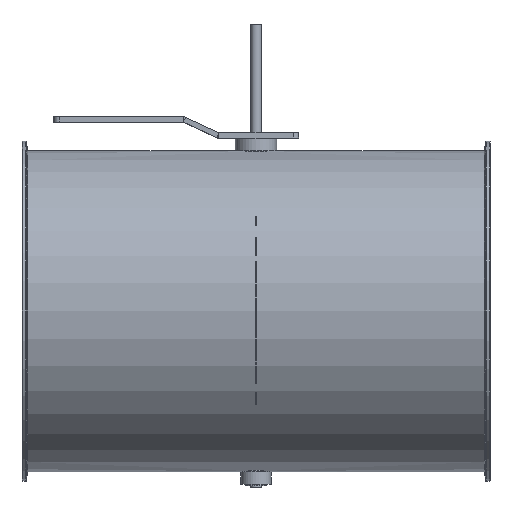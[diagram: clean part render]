
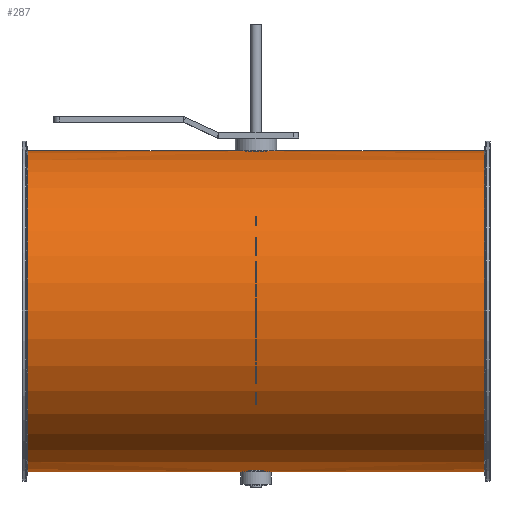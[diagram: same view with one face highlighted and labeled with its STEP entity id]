
A CAD part, top view. The second image highlights one B-rep face of the part: STEP entity #287.
In plain terms, the highlighted cylindrical face has radius 150.8 mm (diameter 301.6 mm), a full revolution.
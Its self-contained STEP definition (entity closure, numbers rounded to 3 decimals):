
#229=B_SPLINE_CURVE_WITH_KNOTS('',3,(#1635,#1636,#1637,#1638,#1639,#1640,
#1641,#1642,#1643,#1644,#1645,#1646,#1647,#1648,#1649,#1650,#1651,#1652),
 .UNSPECIFIED.,.T.,.F.,(2,2,2,2,2,2,2,2,2,2,2),(-0.125,0.,0.125,0.25,0.375,
0.5,0.625,0.75,0.875,1.,1.125),.UNSPECIFIED.);
#230=B_SPLINE_CURVE_WITH_KNOTS('',3,(#1654,#1655,#1656,#1657,#1658,#1659,
#1660,#1661,#1662,#1663,#1664,#1665,#1666,#1667,#1668,#1669,#1670,#1671),
 .UNSPECIFIED.,.T.,.F.,(2,2,2,2,2,2,2,2,2,2,2),(-0.125,0.,0.125,0.25,0.375,
0.5,0.625,0.75,0.875,1.,1.125),.UNSPECIFIED.);
#252=CYLINDRICAL_SURFACE('',#1152,150.8);
#287=ADVANCED_FACE('',(#405,#406,#407,#408),#252,.T.);
#405=FACE_BOUND('',#507,.T.);
#406=FACE_BOUND('',#508,.T.);
#407=FACE_BOUND('',#509,.T.);
#408=FACE_BOUND('',#510,.T.);
#507=EDGE_LOOP('',(#639));
#508=EDGE_LOOP('',(#640));
#509=EDGE_LOOP('',(#641));
#510=EDGE_LOOP('',(#642));
#639=ORIENTED_EDGE('',*,*,#959,.T.);
#640=ORIENTED_EDGE('',*,*,#960,.F.);
#641=ORIENTED_EDGE('',*,*,#961,.F.);
#642=ORIENTED_EDGE('',*,*,#962,.T.);
#869=VERTEX_POINT('',#1634);
#870=VERTEX_POINT('',#1653);
#871=VERTEX_POINT('',#1672);
#872=VERTEX_POINT('',#1674);
#959=EDGE_CURVE('',#869,#869,#1077,.T.);
#960=EDGE_CURVE('',#870,#870,#229,.T.);
#961=EDGE_CURVE('',#871,#871,#230,.T.);
#962=EDGE_CURVE('',#872,#872,#1078,.T.);
#1077=CIRCLE('',#1150,150.8);
#1078=CIRCLE('',#1151,150.8);
#1150=AXIS2_PLACEMENT_3D('',#1633,#1306,#1307);
#1151=AXIS2_PLACEMENT_3D('',#1673,#1308,#1309);
#1152=AXIS2_PLACEMENT_3D('',#1675,#1310,#1311);
#1306=DIRECTION('',(-1.,0.,0.));
#1307=DIRECTION('',(0.,0.,-1.));
#1308=DIRECTION('',(1.,0.,0.));
#1309=DIRECTION('',(0.,0.,1.));
#1310=DIRECTION('',(1.,0.,0.));
#1311=DIRECTION('',(0.,0.,-1.));
#1633=CARTESIAN_POINT('',(214.804,-51.,125.));
#1634=CARTESIAN_POINT('',(214.804,-51.,-25.8));
#1635=CARTESIAN_POINT('',(2.643,99.468,115.));
#1636=CARTESIAN_POINT('',(-2.643,99.468,115.));
#1637=CARTESIAN_POINT('',(-5.227,99.548,116.085));
#1638=CARTESIAN_POINT('',(-8.916,99.721,119.774));
#1639=CARTESIAN_POINT('',(-9.999,99.8,122.385));
#1640=CARTESIAN_POINT('',(-10.001,99.8,127.604));
#1641=CARTESIAN_POINT('',(-8.941,99.722,130.2));
#1642=CARTESIAN_POINT('',(-5.208,99.547,133.936));
#1643=CARTESIAN_POINT('',(-2.614,99.468,134.999));
#1644=CARTESIAN_POINT('',(2.607,99.468,135.001));
#1645=CARTESIAN_POINT('',(5.219,99.547,133.92));
#1646=CARTESIAN_POINT('',(8.91,99.72,130.236));
#1647=CARTESIAN_POINT('',(9.997,99.8,127.65));
#1648=CARTESIAN_POINT('',(10.003,99.8,122.37));
#1649=CARTESIAN_POINT('',(8.921,99.721,119.781));
#1650=CARTESIAN_POINT('',(5.233,99.548,116.088));
#1651=CARTESIAN_POINT('',(2.643,99.468,115.));
#1652=CARTESIAN_POINT('',(-2.643,99.468,115.));
#1653=CARTESIAN_POINT('',(0.,99.468,115.));
#1654=CARTESIAN_POINT('',(-2.643,-201.468,115.));
#1655=CARTESIAN_POINT('',(2.643,-201.468,115.));
#1656=CARTESIAN_POINT('',(5.227,-201.548,116.085));
#1657=CARTESIAN_POINT('',(8.916,-201.721,119.774));
#1658=CARTESIAN_POINT('',(9.999,-201.8,122.385));
#1659=CARTESIAN_POINT('',(10.001,-201.8,127.604));
#1660=CARTESIAN_POINT('',(8.941,-201.722,130.2));
#1661=CARTESIAN_POINT('',(5.208,-201.547,133.936));
#1662=CARTESIAN_POINT('',(2.614,-201.468,134.999));
#1663=CARTESIAN_POINT('',(-2.607,-201.468,135.001));
#1664=CARTESIAN_POINT('',(-5.219,-201.547,133.92));
#1665=CARTESIAN_POINT('',(-8.91,-201.72,130.236));
#1666=CARTESIAN_POINT('',(-9.997,-201.8,127.65));
#1667=CARTESIAN_POINT('',(-10.003,-201.8,122.37));
#1668=CARTESIAN_POINT('',(-8.921,-201.721,119.781));
#1669=CARTESIAN_POINT('',(-5.233,-201.548,116.088));
#1670=CARTESIAN_POINT('',(-2.643,-201.468,115.));
#1671=CARTESIAN_POINT('',(2.643,-201.468,115.));
#1672=CARTESIAN_POINT('',(0.,-201.468,115.));
#1673=CARTESIAN_POINT('',(-214.804,-51.,125.));
#1674=CARTESIAN_POINT('',(-214.804,-51.,275.8));
#1675=CARTESIAN_POINT('',(-220.,-51.,125.));
